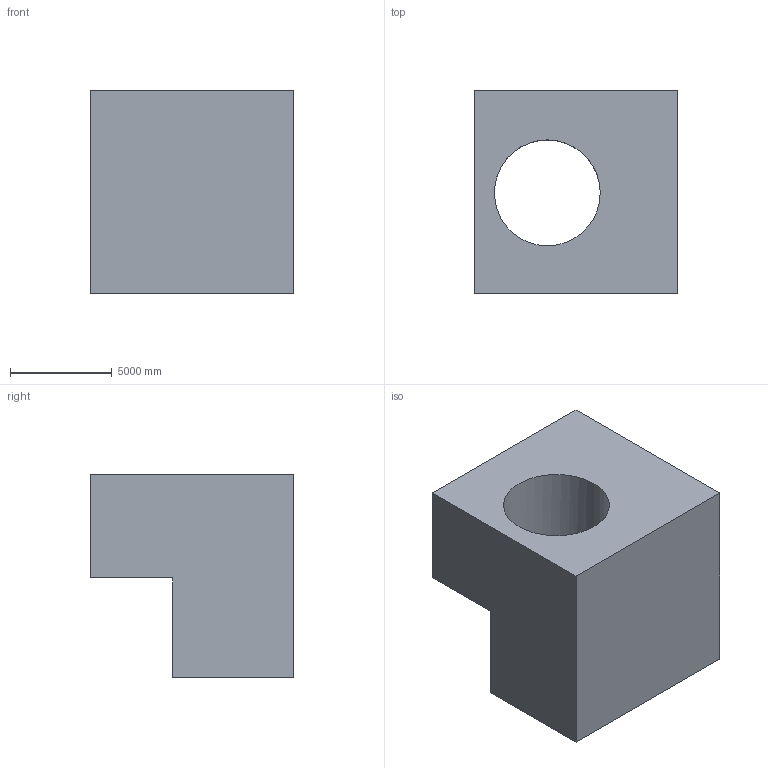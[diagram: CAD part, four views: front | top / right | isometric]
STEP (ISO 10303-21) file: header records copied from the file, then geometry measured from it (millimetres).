
FILE_DESCRIPTION (( 'STEP AP203' ), '1' );
FILE_NAME ('1002.STEP', '2022-08-18T12:22:49', ( 'user' ), ( '' ), 'SwSTEP 2.0', 'SolidWorks 2021', '' );
FILE_SCHEMA (( 'CONFIG_CONTROL_DESIGN' ));
Length unit declared in the file: centimetre
Products named in the file (1): 1002
Bounding box: 10000 x 10000 x 10000 mm (x, y, z)
Volume: 615943321310.5 mm3; surface area: 627820787.3 mm2
Topology: 1 solids, 1 shells, 11 faces, 30 edges, 20 vertices
Faces by surface type: plane 9, cylinder 2
Entity records: 431 total; most frequent: CARTESIAN_POINT 62, ORIENTED_EDGE 60, DIRECTION 60, EDGE_CURVE 30, VECTOR 24, LINE 24, VERTEX_POINT 20, AXIS2_PLACEMENT_3D 18
